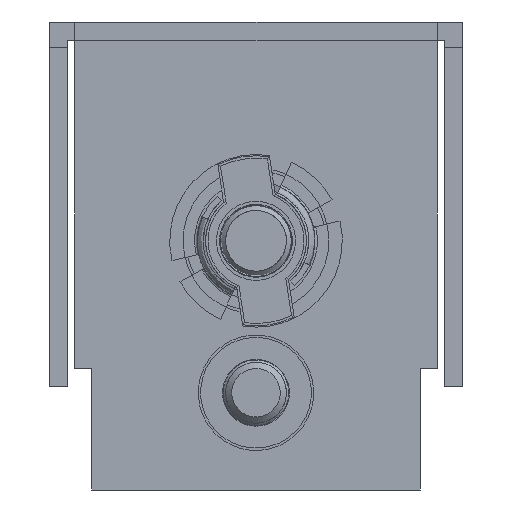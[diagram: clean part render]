
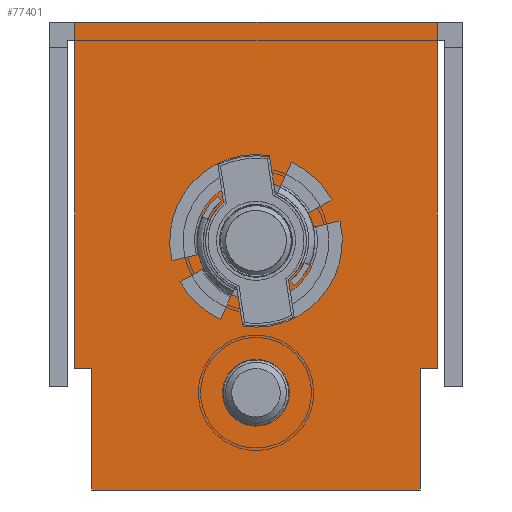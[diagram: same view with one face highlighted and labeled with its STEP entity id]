
A CAD part, left-side view. The second image highlights one B-rep face of the part: STEP entity #77401.
In plain terms, the highlighted planar face has unit normal (-1, 0, 0).
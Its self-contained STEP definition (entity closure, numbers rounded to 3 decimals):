
#6570 = VERTEX_POINT('',#6571);
#6571 = CARTESIAN_POINT('',(-549.,-14.9,1.5));
#6650 = VERTEX_POINT('',#6651);
#6651 = CARTESIAN_POINT('',(-549.,14.9,1.5));
#6657 = EDGE_CURVE('',#6650,#6570,#6658,.T.);
#6658 = LINE('',#6659,#6660);
#6659 = CARTESIAN_POINT('',(-549.,0.,1.5));
#6660 = VECTOR('',#6661,1.);
#6661 = DIRECTION('',(0.,-1.,0.));
#77289 = VERTEX_POINT('',#77290);
#77290 = CARTESIAN_POINT('',(-549.,14.9,-0.6));
#77296 = EDGE_CURVE('',#77289,#6650,#77297,.T.);
#77297 = LINE('',#77298,#77299);
#77298 = CARTESIAN_POINT('',(-549.,14.9,0.));
#77299 = VECTOR('',#77300,1.);
#77300 = DIRECTION('',(0.,-0.,1.));
#77314 = VERTEX_POINT('',#77315);
#77315 = CARTESIAN_POINT('',(-549.,-14.9,-0.6));
#77329 = EDGE_CURVE('',#77314,#6570,#77330,.T.);
#77330 = LINE('',#77331,#77332);
#77331 = CARTESIAN_POINT('',(-549.,-14.9,-0.6));
#77332 = VECTOR('',#77333,1.);
#77333 = DIRECTION('',(0.,0.,1.));
#77352 = VERTEX_POINT('',#77353);
#77353 = CARTESIAN_POINT('',(-549.,14.9,-27.));
#77359 = EDGE_CURVE('',#77289,#77352,#77360,.T.);
#77360 = LINE('',#77361,#77362);
#77361 = CARTESIAN_POINT('',(-549.,14.9,-37.));
#77362 = VECTOR('',#77363,1.);
#77363 = DIRECTION('',(0.,0.,-1.));
#77374 = EDGE_CURVE('',#77375,#77314,#77377,.T.);
#77375 = VERTEX_POINT('',#77376);
#77376 = CARTESIAN_POINT('',(-549.,-14.9,-27.));
#77377 = LINE('',#77378,#77379);
#77378 = CARTESIAN_POINT('',(-549.,-14.9,0.));
#77379 = VECTOR('',#77380,1.);
#77380 = DIRECTION('',(0.,0.,1.));
#77401 = ADVANCED_FACE('',(#77402,#77413,#77424),#77469,.F.);
#77402 = FACE_BOUND('',#77403,.T.);
#77403 = EDGE_LOOP('',(#77404));
#77404 = ORIENTED_EDGE('',*,*,#77405,.T.);
#77405 = EDGE_CURVE('',#77406,#77406,#77408,.T.);
#77406 = VERTEX_POINT('',#77407);
#77407 = CARTESIAN_POINT('',(-549.,0.,-19.75));
#77408 = CIRCLE('',#77409,3.25);
#77409 = AXIS2_PLACEMENT_3D('',#77410,#77411,#77412);
#77410 = CARTESIAN_POINT('',(-549.,0.,-16.5));
#77411 = DIRECTION('',(1.,0.,0.));
#77412 = DIRECTION('',(0.,0.,-1.));
#77413 = FACE_BOUND('',#77414,.T.);
#77414 = EDGE_LOOP('',(#77415));
#77415 = ORIENTED_EDGE('',*,*,#77416,.T.);
#77416 = EDGE_CURVE('',#77417,#77417,#77419,.T.);
#77417 = VERTEX_POINT('',#77418);
#77418 = CARTESIAN_POINT('',(-549.,0.,-31.75));
#77419 = CIRCLE('',#77420,2.75);
#77420 = AXIS2_PLACEMENT_3D('',#77421,#77422,#77423);
#77421 = CARTESIAN_POINT('',(-549.,0.,-29.));
#77422 = DIRECTION('',(1.,0.,0.));
#77423 = DIRECTION('',(0.,0.,-1.));
#77424 = FACE_BOUND('',#77425,.T.);
#77425 = EDGE_LOOP('',(#77426,#77436,#77442,#77443,#77444,#77445,#77446,
    #77447,#77455,#77463));
#77426 = ORIENTED_EDGE('',*,*,#77427,.T.);
#77427 = EDGE_CURVE('',#77428,#77430,#77432,.T.);
#77428 = VERTEX_POINT('',#77429);
#77429 = CARTESIAN_POINT('',(-549.,-13.5,-37.));
#77430 = VERTEX_POINT('',#77431);
#77431 = CARTESIAN_POINT('',(-549.,-13.5,-27.));
#77432 = LINE('',#77433,#77434);
#77433 = CARTESIAN_POINT('',(-549.,-13.5,-37.));
#77434 = VECTOR('',#77435,1.);
#77435 = DIRECTION('',(0.,0.,1.));
#77436 = ORIENTED_EDGE('',*,*,#77437,.T.);
#77437 = EDGE_CURVE('',#77430,#77375,#77438,.T.);
#77438 = LINE('',#77439,#77440);
#77439 = CARTESIAN_POINT('',(-549.,-14.9,-27.));
#77440 = VECTOR('',#77441,1.);
#77441 = DIRECTION('',(-0.,-1.,-0.));
#77442 = ORIENTED_EDGE('',*,*,#77374,.T.);
#77443 = ORIENTED_EDGE('',*,*,#77329,.T.);
#77444 = ORIENTED_EDGE('',*,*,#6657,.F.);
#77445 = ORIENTED_EDGE('',*,*,#77296,.F.);
#77446 = ORIENTED_EDGE('',*,*,#77359,.T.);
#77447 = ORIENTED_EDGE('',*,*,#77448,.T.);
#77448 = EDGE_CURVE('',#77352,#77449,#77451,.T.);
#77449 = VERTEX_POINT('',#77450);
#77450 = CARTESIAN_POINT('',(-549.,13.5,-27.));
#77451 = LINE('',#77452,#77453);
#77452 = CARTESIAN_POINT('',(-549.,14.9,-27.));
#77453 = VECTOR('',#77454,1.);
#77454 = DIRECTION('',(0.,-1.,0.));
#77455 = ORIENTED_EDGE('',*,*,#77456,.T.);
#77456 = EDGE_CURVE('',#77449,#77457,#77459,.T.);
#77457 = VERTEX_POINT('',#77458);
#77458 = CARTESIAN_POINT('',(-549.,13.5,-37.));
#77459 = LINE('',#77460,#77461);
#77460 = CARTESIAN_POINT('',(-549.,13.5,-37.));
#77461 = VECTOR('',#77462,1.);
#77462 = DIRECTION('',(-0.,0.,-1.));
#77463 = ORIENTED_EDGE('',*,*,#77464,.T.);
#77464 = EDGE_CURVE('',#77457,#77428,#77465,.T.);
#77465 = LINE('',#77466,#77467);
#77466 = CARTESIAN_POINT('',(-549.,-14.9,-37.));
#77467 = VECTOR('',#77468,1.);
#77468 = DIRECTION('',(0.,-1.,0.));
#77469 = PLANE('',#77470);
#77470 = AXIS2_PLACEMENT_3D('',#77471,#77472,#77473);
#77471 = CARTESIAN_POINT('',(-549.,0.,0.
    ));
#77472 = DIRECTION('',(1.,0.,0.));
#77473 = DIRECTION('',(0.,1.,0.));
